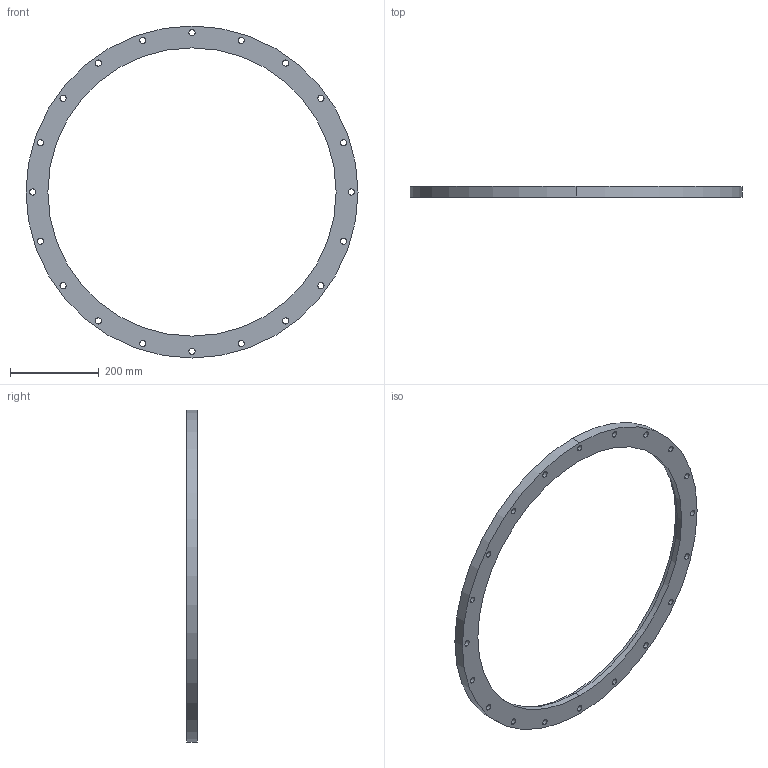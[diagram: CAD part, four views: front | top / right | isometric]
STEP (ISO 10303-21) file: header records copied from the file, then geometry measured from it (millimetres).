
FILE_DESCRIPTION (( 'STEP AP214' ), '1' );
FILE_NAME ('W5KL630.STEP', '2019-04-01T14:39:32', ( '' ), ( '' ), 'SwSTEP 2.0', 'SolidWorks 2018', '' );
FILE_SCHEMA (( 'AUTOMOTIVE_DESIGN' ));
Length unit declared in the file: millimetre
Products named in the file (1): W5KL630
Bounding box: 750 x 24 x 750 mm (x, y, z)
Volume: 2436048.3 mm3; surface area: 338568.8 mm2
Topology: 1 solids, 1 shells, 49 faces, 138 edges, 92 vertices
Faces by surface type: cylinder 46, plane 3
Entity records: 1762 total; most frequent: DIRECTION 330, CARTESIAN_POINT 280, ORIENTED_EDGE 276, AXIS2_PLACEMENT_3D 142, EDGE_CURVE 138, CIRCLE 92, EDGE_LOOP 92, VERTEX_POINT 92
